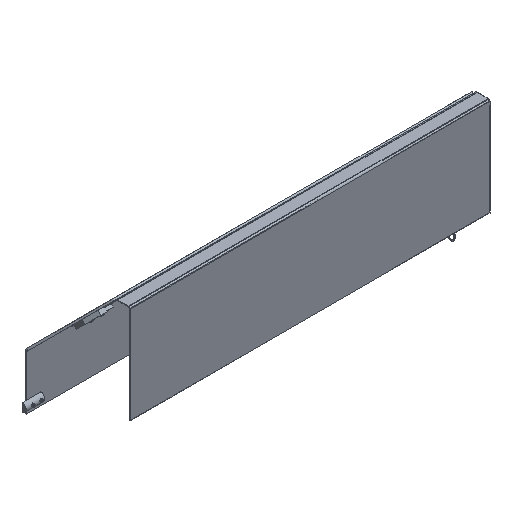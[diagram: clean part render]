
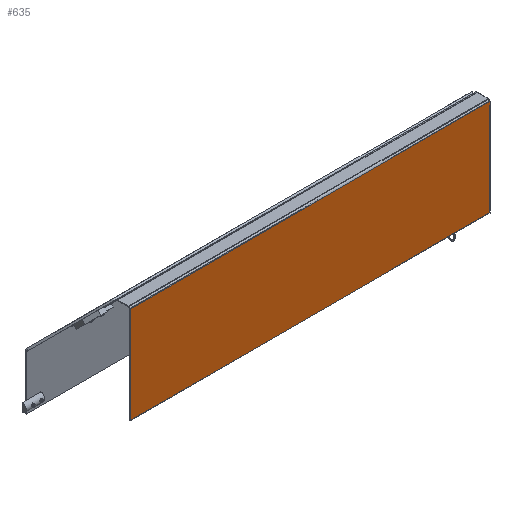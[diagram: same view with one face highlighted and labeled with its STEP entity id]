
A CAD part, isometric view. The second image highlights one B-rep face of the part: STEP entity #635.
In plain terms, the highlighted planar face has unit normal (0, -1, 0).
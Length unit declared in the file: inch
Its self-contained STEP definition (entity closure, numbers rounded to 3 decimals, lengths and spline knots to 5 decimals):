
#202=DIRECTION('',(0.,0.,1.));
#203=VECTOR('',#202,5.8922);
#204=CARTESIAN_POINT('',(10.97,-0.0478,-5.9522));
#205=LINE('',#204,#203);
#218=DIRECTION('',(0.,0.,1.));
#219=VECTOR('',#218,5.8922);
#220=CARTESIAN_POINT('',(-10.97,-0.0478,-5.9522));
#221=LINE('',#220,#219);
#222=DIRECTION('',(-1.,0.,0.));
#223=VECTOR('',#222,21.94);
#224=CARTESIAN_POINT('',(10.97,-0.0478,-5.9522));
#225=LINE('',#224,#223);
#230=DIRECTION('',(-1.,0.,0.));
#231=VECTOR('',#230,21.94);
#232=CARTESIAN_POINT('',(10.97,-0.0478,-0.06));
#233=LINE('',#232,#231);
#262=CARTESIAN_POINT('',(10.97,-0.0478,-5.9522));
#263=CARTESIAN_POINT('',(10.97,-0.0478,-0.06));
#264=VERTEX_POINT('',#262);
#265=VERTEX_POINT('',#263);
#272=CARTESIAN_POINT('',(-10.97,-0.0478,-5.9522));
#273=CARTESIAN_POINT('',(-10.97,-0.0478,-0.06));
#274=VERTEX_POINT('',#272);
#275=VERTEX_POINT('',#273);
#622=CARTESIAN_POINT('',(10.97,-0.0478,-5.9522));
#623=DIRECTION('',(0.,1.,0.));
#624=DIRECTION('',(0.,0.,1.));
#625=AXIS2_PLACEMENT_3D('',#622,#623,#624);
#626=PLANE('',#625);
#627=ORIENTED_EDGE('',*,*,#588,.F.);
#629=ORIENTED_EDGE('',*,*,#628,.T.);
#630=ORIENTED_EDGE('',*,*,#615,.T.);
#632=ORIENTED_EDGE('',*,*,#631,.F.);
#633=EDGE_LOOP('',(#627,#629,#630,#632));
#634=FACE_OUTER_BOUND('',#633,.F.);
#588=EDGE_CURVE('',#264,#265,#205,.T.);
#615=EDGE_CURVE('',#274,#275,#221,.T.);
#628=EDGE_CURVE('',#264,#274,#225,.T.);
#631=EDGE_CURVE('',#265,#275,#233,.T.);
#635=ADVANCED_FACE('',(#634),#626,.F.);
